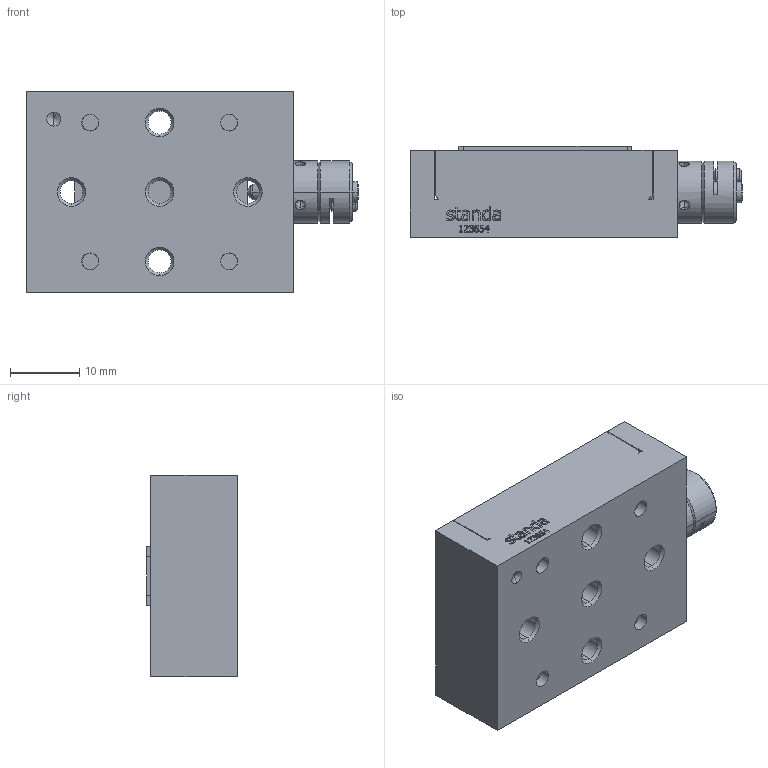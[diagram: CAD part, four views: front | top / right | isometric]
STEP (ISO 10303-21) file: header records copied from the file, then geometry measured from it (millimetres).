
FILE_DESCRIPTION (( 'STEP AP203' ), '1' );
FILE_NAME ('7T67-6-9SH137ML.STEP', '2010-01-29T14:36:34', ( 'Darius' ), ( '' ), 'SwSTEP 2.0', 'SolidWorks 2003240', '' );
FILE_SCHEMA (( 'CONFIG_CONTROL_DESIGN' ));
Length unit declared in the file: millimetre
Products named in the file (1): 7T67-6-9SH137ML
Bounding box: 47.8 x 13.1 x 29 mm (x, y, z)
Volume: 12675 mm3; surface area: 8641.7 mm2
Topology: 1 solids, 6 shells, 611 faces, 1566 edges, 992 vertices
Faces by surface type: plane 266, bspline 175, cylinder 102, cone 68
Entity records: 22283 total; most frequent: CARTESIAN_POINT 8515, ORIENTED_EDGE 3076, DIRECTION 2348, EDGE_CURVE 1538, VERTEX_POINT 992, VECTOR 814, LINE 814, AXIS2_PLACEMENT_3D 767
